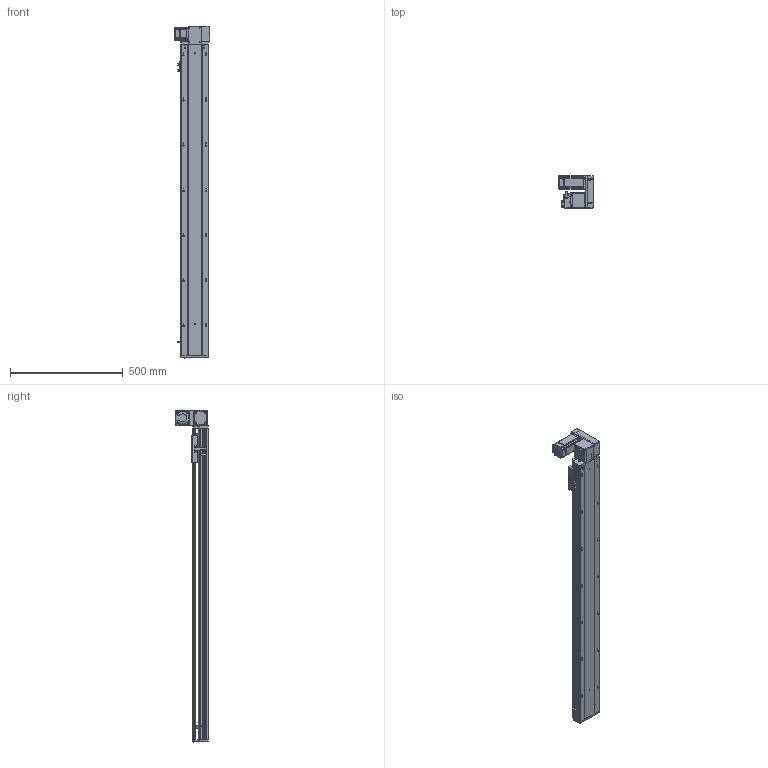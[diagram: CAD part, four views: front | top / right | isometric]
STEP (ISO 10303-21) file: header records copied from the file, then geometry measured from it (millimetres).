
FILE_DESCRIPTION (( 'STEP AP203' ), '1' );
FILE_NAME ('RY120-T-300-UR.SLDASM_1150.step', '2021-03-01T05:56:55', ( '盈信电脑' ), ( '东莞市道滘镇水果街19号' ), 'SwSTEP 2.0', 'SolidWorks 2012', '' );
FILE_SCHEMA (( 'CONFIG_CONTROL_DESIGN' ));
Length unit declared in the file: millimetre
Products named in the file (17): RY120-T主同步轮轴承压盖; RY120-T-300-UR.SLDASM_1150; 15; RY120-T萇儂欶; RY120-T蹟翐M4; 滅袉蝶18-10; RY120-T萇儂假蚾啣; RY120-T翋肮祭謫裔啣; RY120-T翋肮祭盓傅釱; RY120-T肮祭湍揤踡輸2; RY120-T肮祭湍揤踡輸1; RY120肮祭湍臏賑輸; RY120綴裔啣; 覜茼ん672; RY120外置感应片(140共用）; RY120-T-300-UR倰第奻裔啣_1150; RY120-T-300-UR倰第菁釱_1150
Assembly tree (22 placements, depth 2):
  RY120-T-300-UR.SLDASM_1150
    RY120-T-300-UR倰第菁釱_1150
    RY120-T-300-UR倰第奻裔啣_1150
    RY120肮祭湍臏賑輸
    RY120綴裔啣
    覜茼ん672  x3
    RY120外置感应片(140共用）
    RY120-T肮祭湍揤踡輸1
    RY120-T肮祭湍揤踡輸2
    RY120-T翋肮祭盓傅釱
    RY120-T萇儂假蚾啣
    滅袉蝶18-10  x2
    RY120-T翋肮祭謫裔啣
    15
    RY120-T蹟翐M4  x4
    RY120-T萇儂欶
    RY120-T主同步轮轴承压盖
Bounding box: 155.5 x 146 x 1471 mm (x, y, z)
Volume: 3946758.2 mm3; surface area: 1480474.9 mm2
Topology: 23 solids, 23 shells, 2836 faces, 7720 edges, 4940 vertices
Faces by surface type: plane 1412, cylinder 1074, cone 261, bspline 89
Entity records: 89921 total; most frequent: CARTESIAN_POINT 22730, ORIENTED_EDGE 13840, DIRECTION 13142, EDGE_CURVE 6920, VERTEX_POINT 4527, AXIS2_PLACEMENT_3D 4407, VECTOR 4328, LINE 4328
